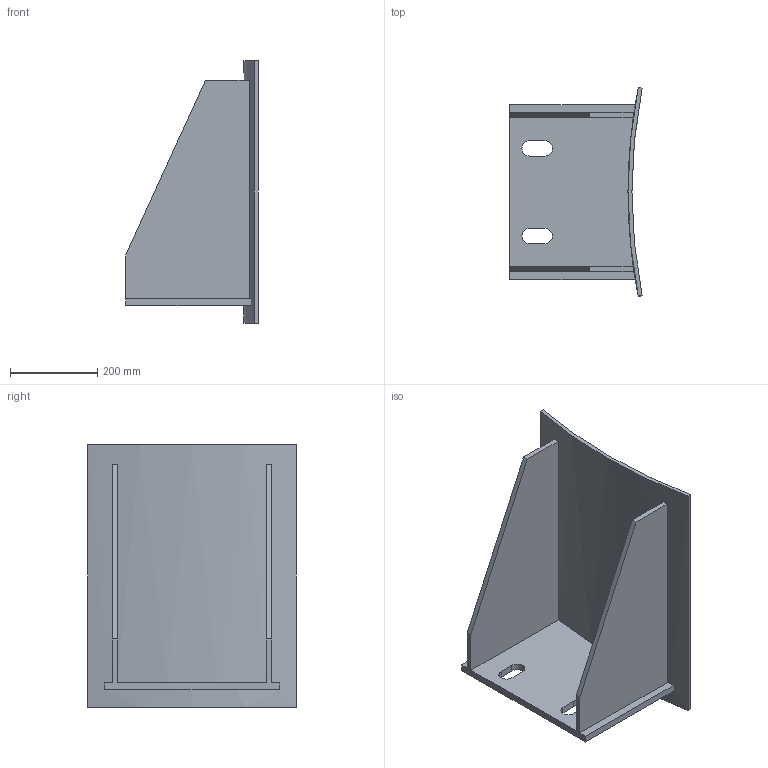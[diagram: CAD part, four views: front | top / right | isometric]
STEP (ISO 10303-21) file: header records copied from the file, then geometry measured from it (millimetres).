
FILE_DESCRIPTION(/* description */ (''),/* implementation_level */ '2;1');
FILE_NAME(/* name */ 'C:\Users\D\Documents\Inventor\HP\JPI\竪型容器用ラグサポート\軽荷重用ラグサポート Light-duty lug support\ld-lug-support-d2400.stp',/* time_stamp */ '2026-02-05T16:55:39+09:00',/* author */ ('D'),/* organization */ (''),/* preprocessor_version */ 'ST-DEVELOPER v18',/* originating_system */ 'Autodesk Inventor 2020',/* authorisation */ '');
FILE_SCHEMA (('AUTOMOTIVE_DESIGN { 1 0 10303 214 3 1 1 }'));
Length unit declared in the file: millimetre
Products named in the file (1): light-duty lug support
Bounding box: 302.39 x 476.9 x 600 mm (x, y, z)
Volume: 6785448 mm3; surface area: 1258713.3 mm2
Topology: 1 solids, 1 shells, 31 faces, 80 edges, 52 vertices
Faces by surface type: plane 25, cylinder 6
Entity records: 1001 total; most frequent: CARTESIAN_POINT 166, ORIENTED_EDGE 164, DIRECTION 162, EDGE_CURVE 82, LINE 66, VECTOR 66, VERTEX_POINT 52, AXIS2_PLACEMENT_3D 48
